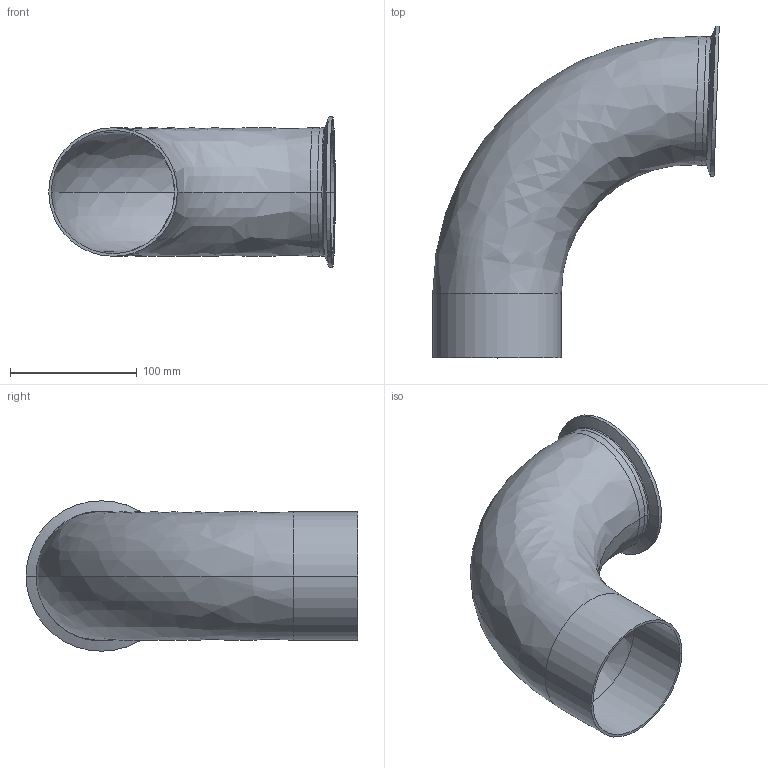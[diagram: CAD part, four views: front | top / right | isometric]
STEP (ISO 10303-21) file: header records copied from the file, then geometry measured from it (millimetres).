
FILE_DESCRIPTION (( 'STEP AP214' ), '1' );
FILE_NAME ('TE2C926L4.0-...STEP', '2016-05-22T11:08:26', ( 'eran' ), ( '' ), 'SwSTEP 2.0', 'SolidWorks 2016', '' );
FILE_SCHEMA (( 'AUTOMOTIVE_DESIGN' ));
Length unit declared in the file: millimetre
Products named in the file (1): TE2C926L4.0-..
Bounding box: 226.36 x 262.21 x 118.92 mm (x, y, z)
Volume: 218070.4 mm3; surface area: 202733.9 mm2
Topology: 2 solids, 2 shells, 39 faces, 92 edges, 58 vertices
Faces by surface type: bspline 14, cylinder 14, cone 6, plane 5
Entity records: 1885 total; most frequent: CARTESIAN_POINT 942, DIRECTION 204, ORIENTED_EDGE 184, AXIS2_PLACEMENT_3D 92, EDGE_CURVE 92, CIRCLE 66, VERTEX_POINT 58, EDGE_LOOP 44
